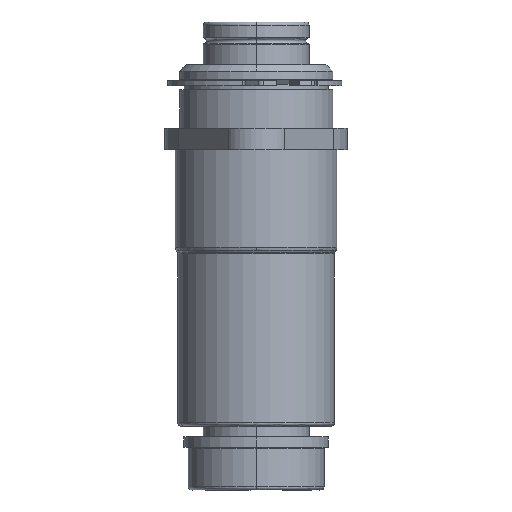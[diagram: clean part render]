
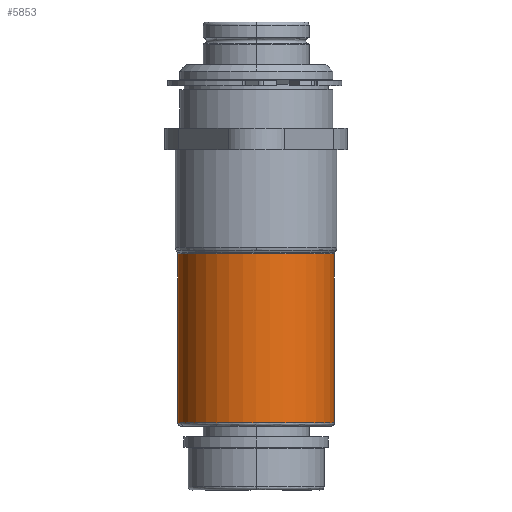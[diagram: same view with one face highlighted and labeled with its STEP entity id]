
A CAD part, left-side view. The second image highlights one B-rep face of the part: STEP entity #5853.
In plain terms, the highlighted cylindrical face has radius 23.368 mm (diameter 46.736 mm), a partial arc.
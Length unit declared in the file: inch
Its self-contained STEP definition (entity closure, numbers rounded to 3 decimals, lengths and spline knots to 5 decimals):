
#101 = EDGE_CURVE ( 'NONE', #561, #1256, #1913, .T. ) ;
#382 = FACE_OUTER_BOUND ( 'NONE', #483, .T. ) ;
#483 = EDGE_LOOP ( 'NONE', ( #4686, #3675, #2590, #4157, #4109 ) ) ;
#561 = VERTEX_POINT ( 'NONE', #2060 ) ;
#639 = VERTEX_POINT ( 'NONE', #2485 ) ;
#1034 = DIRECTION ( 'NONE',  ( 0., 0., -1. ) ) ;
#1057 = AXIS2_PLACEMENT_3D ( 'NONE', #1496, #3881, #1958 ) ;
#1110 = LINE ( 'NONE', #4362, #4700 ) ;
#1256 = VERTEX_POINT ( 'NONE', #4673 ) ;
#1317 = EDGE_CURVE ( 'NONE', #1256, #639, #4357, .T. ) ;
#1496 = CARTESIAN_POINT ( 'NONE',  ( 0., -1.225, 0. ) ) ;
#1509 = CARTESIAN_POINT ( 'NONE',  ( 0., -3.21, 0. ) ) ;
#1760 = AXIS2_PLACEMENT_3D ( 'NONE', #1509, #1951, #1034 ) ;
#1898 = AXIS2_PLACEMENT_3D ( 'NONE', #1955, #2428, #2577 ) ;
#1913 = CIRCLE ( 'NONE', #4623, 0.92 ) ;
#1951 = DIRECTION ( 'NONE',  ( 0., -1., 0. ) ) ;
#1955 = CARTESIAN_POINT ( 'NONE',  ( 0., -3.25, 0. ) ) ;
#1958 = DIRECTION ( 'NONE',  ( 0., 0., 1. ) ) ;
#1999 = CARTESIAN_POINT ( 'NONE',  ( 0., -1.225, 0. ) ) ;
#2060 = CARTESIAN_POINT ( 'NONE',  ( 0., -1.225, 0.92 ) ) ;
#2117 = EDGE_CURVE ( 'NONE', #5905, #3205, #2843, .T. ) ;
#2428 = DIRECTION ( 'NONE',  ( 0., 1., 0. ) ) ;
#2485 = CARTESIAN_POINT ( 'NONE',  ( 0., -1.225, -0.92 ) ) ;
#2577 = DIRECTION ( 'NONE',  ( 0., 0., 1. ) ) ;
#2590 = ORIENTED_EDGE ( 'NONE', *, *, #4445, .T. ) ;
#2631 = EDGE_CURVE ( 'NONE', #3205, #639, #1110, .T. ) ;
#2843 = CIRCLE ( 'NONE', #1760, 0.92 ) ;
#3108 = VECTOR ( 'NONE', #3982, 39.37008 ) ;
#3205 = VERTEX_POINT ( 'NONE', #3523 ) ;
#3523 = CARTESIAN_POINT ( 'NONE',  ( 0., -3.21, -0.92 ) ) ;
#3675 = ORIENTED_EDGE ( 'NONE', *, *, #2117, .F. ) ;
#3847 = CYLINDRICAL_SURFACE ( 'NONE', #1898, 0.92 ) ;
#3881 = DIRECTION ( 'NONE',  ( 0., -1., 0. ) ) ;
#3982 = DIRECTION ( 'NONE',  ( 0., 1., 0. ) ) ;
#4109 = ORIENTED_EDGE ( 'NONE', *, *, #1317, .T. ) ;
#4157 = ORIENTED_EDGE ( 'NONE', *, *, #101, .T. ) ;
#4357 = CIRCLE ( 'NONE', #1057, 0.92 ) ;
#4362 = CARTESIAN_POINT ( 'NONE',  ( 0., -3.25, -0.92 ) ) ;
#4368 = LINE ( 'NONE', #5764, #3108 ) ;
#4445 = EDGE_CURVE ( 'NONE', #5905, #561, #4368, .T. ) ;
#4623 = AXIS2_PLACEMENT_3D ( 'NONE', #1999, #4903, #5780 ) ;
#4673 = CARTESIAN_POINT ( 'NONE',  ( -0.92, -1.225, 0. ) ) ;
#4686 = ORIENTED_EDGE ( 'NONE', *, *, #2631, .F. ) ;
#4700 = VECTOR ( 'NONE', #6048, 39.37008 ) ;
#4903 = DIRECTION ( 'NONE',  ( 0., -1., 0. ) ) ;
#5764 = CARTESIAN_POINT ( 'NONE',  ( 0., -3.25, 0.92 ) ) ;
#5780 = DIRECTION ( 'NONE',  ( 0., 0., 1. ) ) ;
#5853 = ADVANCED_FACE ( 'NONE', ( #382 ), #3847, .T. ) ;
#5905 = VERTEX_POINT ( 'NONE', #5935 ) ;
#5935 = CARTESIAN_POINT ( 'NONE',  ( 0., -3.21, 0.92 ) ) ;
#6048 = DIRECTION ( 'NONE',  ( 0., 1., 0. ) ) ;
